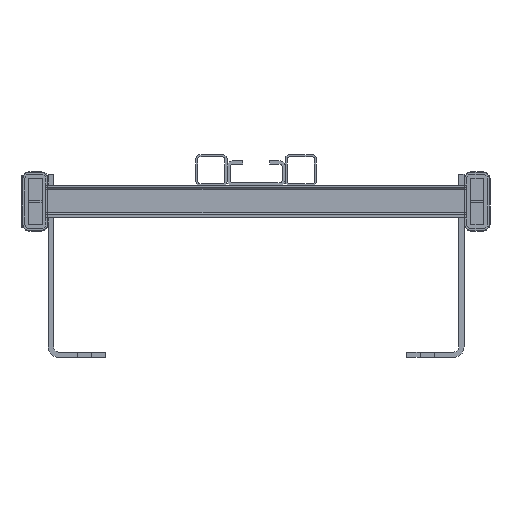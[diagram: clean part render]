
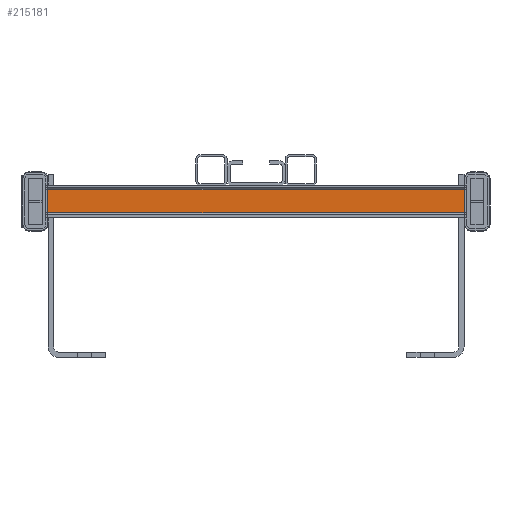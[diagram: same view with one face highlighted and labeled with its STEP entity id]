
A CAD part, front view. The second image highlights one B-rep face of the part: STEP entity #215181.
In plain terms, the highlighted planar face has unit normal (0, -1, 0).
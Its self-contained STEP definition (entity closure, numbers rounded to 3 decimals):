
#204487=DIRECTION('',(0.,0.,-1.));
#204488=VECTOR('',#204487,22.);
#204489=CARTESIAN_POINT('',(-202.5,26.5,11.));
#204490=LINE('',#204489,#204488);
#204673=DIRECTION('',(0.,0.,-1.));
#204674=VECTOR('',#204673,22.);
#204675=CARTESIAN_POINT('',(202.5,26.5,11.));
#204676=LINE('',#204675,#204674);
#204717=DIRECTION('',(-1.,0.,0.));
#204718=VECTOR('',#204717,405.);
#204719=CARTESIAN_POINT('',(202.5,26.5,-11.));
#204720=LINE('',#204719,#204718);
#204721=DIRECTION('',(-1.,0.,0.));
#204722=VECTOR('',#204721,405.);
#204723=CARTESIAN_POINT('',(202.5,26.5,11.));
#204724=LINE('',#204723,#204722);
#206062=CARTESIAN_POINT('',(202.5,26.5,-11.));
#206063=CARTESIAN_POINT('',(-202.5,26.5,-11.));
#206064=VERTEX_POINT('',#206062);
#206065=VERTEX_POINT('',#206063);
#206074=CARTESIAN_POINT('',(202.5,26.5,11.));
#206075=CARTESIAN_POINT('',(-202.5,26.5,11.));
#206076=VERTEX_POINT('',#206074);
#206077=VERTEX_POINT('',#206075);
#215169=CARTESIAN_POINT('',(-202.5,26.5,-13.));
#215170=DIRECTION('',(0.,-1.,0.));
#215171=DIRECTION('',(0.,0.,1.));
#215172=AXIS2_PLACEMENT_3D('',#215169,#215170,#215171);
#215173=PLANE('',#215172);
#215174=ORIENTED_EDGE('',*,*,#215161,.T.);
#215175=ORIENTED_EDGE('',*,*,#214870,.F.);
#215177=ORIENTED_EDGE('',*,*,#215176,.F.);
#215178=ORIENTED_EDGE('',*,*,#215139,.T.);
#215179=EDGE_LOOP('',(#215174,#215175,#215177,#215178));
#215180=FACE_OUTER_BOUND('',#215179,.F.);
#214870=EDGE_CURVE('',#206077,#206065,#204490,.T.);
#215139=EDGE_CURVE('',#206076,#206064,#204676,.T.);
#215161=EDGE_CURVE('',#206064,#206065,#204720,.T.);
#215176=EDGE_CURVE('',#206076,#206077,#204724,.T.);
#215181=ADVANCED_FACE('',(#215180),#215173,.T.);
